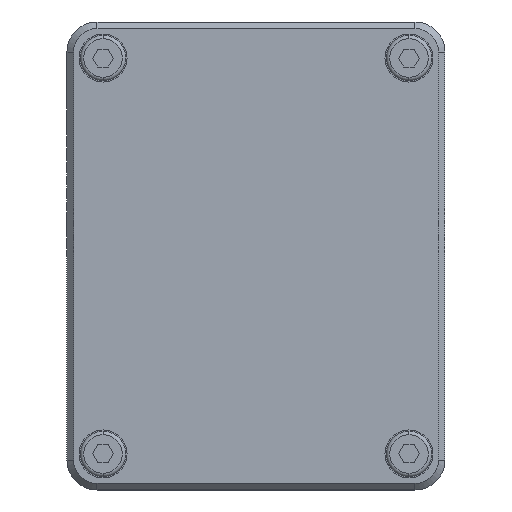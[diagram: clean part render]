
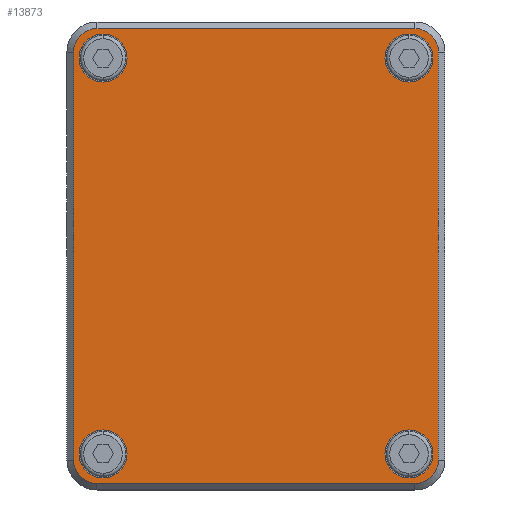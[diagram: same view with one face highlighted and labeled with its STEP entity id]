
A CAD part, front view. The second image highlights one B-rep face of the part: STEP entity #13873.
In plain terms, the highlighted planar face has unit normal (0, -1, 0).
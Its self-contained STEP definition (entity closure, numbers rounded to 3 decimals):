
#86 = VERTEX_POINT ( 'NONE', #26435 ) ;
#804 = EDGE_CURVE ( 'NONE', #17930, #3911, #20769, .T. ) ;
#1087 = CARTESIAN_POINT ( 'NONE',  ( 12.75, 0., -18.5 ) ) ;
#1195 = DIRECTION ( 'NONE',  ( 0., -1., 0. ) ) ;
#1227 = CARTESIAN_POINT ( 'NONE',  ( -13.25, 0., 18.95 ) ) ;
#1240 = CARTESIAN_POINT ( 'NONE',  ( 13.25, 0., -18.95 ) ) ;
#1244 = AXIS2_PLACEMENT_3D ( 'NONE', #32764, #1195, #40172 ) ;
#1585 = ORIENTED_EDGE ( 'NONE', *, *, #3953, .T. ) ;
#2086 = DIRECTION ( 'NONE',  ( 0., -1., 0. ) ) ;
#2165 = ORIENTED_EDGE ( 'NONE', *, *, #38783, .T. ) ;
#2243 = DIRECTION ( 'NONE',  ( 0., 0., -1. ) ) ;
#2758 = CARTESIAN_POINT ( 'NONE',  ( -15.2, 0., -17. ) ) ;
#3074 = CARTESIAN_POINT ( 'NONE',  ( -13.25, 0., 18.95 ) ) ;
#3911 = VERTEX_POINT ( 'NONE', #41029 ) ;
#3919 = FACE_BOUND ( 'NONE', #33617, .T. ) ;
#3953 = EDGE_CURVE ( 'NONE', #7429, #22834, #20222, .T. ) ;
#4051 = CIRCLE ( 'NONE', #36503, 1.95 ) ;
#4334 = DIRECTION ( 'NONE',  ( 0., -1., 0. ) ) ;
#4456 = AXIS2_PLACEMENT_3D ( 'NONE', #12577, #37949, #9380 ) ;
#4591 = CIRCLE ( 'NONE', #17085, 2. ) ;
#4826 = ORIENTED_EDGE ( 'NONE', *, *, #8606, .F. ) ;
#4882 = ORIENTED_EDGE ( 'NONE', *, *, #9795, .T. ) ;
#5132 = ORIENTED_EDGE ( 'NONE', *, *, #7866, .F. ) ;
#5941 = VERTEX_POINT ( 'NONE', #41621 ) ;
#6053 = VERTEX_POINT ( 'NONE', #41189 ) ;
#6199 = LINE ( 'NONE', #2758, #19258 ) ;
#6934 = FACE_BOUND ( 'NONE', #37866, .T. ) ;
#7429 = VERTEX_POINT ( 'NONE', #20666 ) ;
#7469 = DIRECTION ( 'NONE',  ( 0., 0., -1. ) ) ;
#7866 = EDGE_CURVE ( 'NONE', #86, #16797, #24680, .T. ) ;
#7880 = CARTESIAN_POINT ( 'NONE',  ( -12.75, 0., 16.5 ) ) ;
#8038 = CARTESIAN_POINT ( 'NONE',  ( 13.25, 0., -18.95 ) ) ;
#8606 = EDGE_CURVE ( 'NONE', #3911, #17930, #30964, .T. ) ;
#8613 = DIRECTION ( 'NONE',  ( 0., -1., 0. ) ) ;
#9015 = AXIS2_PLACEMENT_3D ( 'NONE', #39905, #19576, #29738 ) ;
#9087 = ORIENTED_EDGE ( 'NONE', *, *, #25024, .F. ) ;
#9321 = DIRECTION ( 'NONE',  ( 0., -1., 0. ) ) ;
#9380 = DIRECTION ( 'NONE',  ( 0., 0., 1. ) ) ;
#9795 = EDGE_CURVE ( 'NONE', #22834, #28900, #22179, .T. ) ;
#10007 = ORIENTED_EDGE ( 'NONE', *, *, #40045, .F. ) ;
#10244 = ORIENTED_EDGE ( 'NONE', *, *, #30945, .T. ) ;
#10292 = CARTESIAN_POINT ( 'NONE',  ( -12.75, 0., 18.5 ) ) ;
#10331 = DIRECTION ( 'NONE',  ( 0., 0., -1. ) ) ;
#10365 = EDGE_CURVE ( 'NONE', #14129, #31564, #6199, .T. ) ;
#10486 = DIRECTION ( 'NONE',  ( 0., -1., 0. ) ) ;
#10711 = AXIS2_PLACEMENT_3D ( 'NONE', #36384, #4334, #39858 ) ;
#10955 = CARTESIAN_POINT ( 'NONE',  ( 12.75, 0., 18.5 ) ) ;
#11379 = CARTESIAN_POINT ( 'NONE',  ( 13.25, 0., 17. ) ) ;
#11564 = DIRECTION ( 'NONE',  ( 0., 0., -1. ) ) ;
#11599 = EDGE_CURVE ( 'NONE', #16489, #5941, #4591, .T. ) ;
#11994 = CIRCLE ( 'NONE', #29638, 2. ) ;
#12141 = AXIS2_PLACEMENT_3D ( 'NONE', #11379, #10486, #7469 ) ;
#12577 = CARTESIAN_POINT ( 'NONE',  ( -12.75, 0., -16.5 ) ) ;
#13846 = FACE_BOUND ( 'NONE', #14206, .T. ) ;
#13873 = ADVANCED_FACE ( 'NONE', ( #38524, #3919, #13846, #28132, #6934 ), #20979, .T. ) ;
#14129 = VERTEX_POINT ( 'NONE', #20404 ) ;
#14206 = EDGE_LOOP ( 'NONE', ( #43019, #9087 ) ) ;
#14401 = AXIS2_PLACEMENT_3D ( 'NONE', #24684, #38758, #17963 ) ;
#15281 = VECTOR ( 'NONE', #22079, 1000. ) ;
#16085 = CARTESIAN_POINT ( 'NONE',  ( 12.75, 0., 16.5 ) ) ;
#16134 = DIRECTION ( 'NONE',  ( 0., 0., -1. ) ) ;
#16489 = VERTEX_POINT ( 'NONE', #1087 ) ;
#16545 = CARTESIAN_POINT ( 'NONE',  ( 13.25, 0., 18.95 ) ) ;
#16797 = VERTEX_POINT ( 'NONE', #10955 ) ;
#17085 = AXIS2_PLACEMENT_3D ( 'NONE', #45372, #45592, #10331 ) ;
#17930 = VERTEX_POINT ( 'NONE', #26226 ) ;
#17963 = DIRECTION ( 'NONE',  ( 0., 0., -1. ) ) ;
#17970 = EDGE_CURVE ( 'NONE', #16797, #86, #42344, .T. ) ;
#18447 = VERTEX_POINT ( 'NONE', #1240 ) ;
#18999 = CIRCLE ( 'NONE', #22687, 1.95 ) ;
#19258 = VECTOR ( 'NONE', #31079, 1000. ) ;
#19576 = DIRECTION ( 'NONE',  ( 0., -1., 0. ) ) ;
#20138 = ORIENTED_EDGE ( 'NONE', *, *, #10365, .T. ) ;
#20222 = CIRCLE ( 'NONE', #12141, 1.95 ) ;
#20404 = CARTESIAN_POINT ( 'NONE',  ( -15.2, 0., 17. ) ) ;
#20666 = CARTESIAN_POINT ( 'NONE',  ( 15.2, 0., 17. ) ) ;
#20709 = DIRECTION ( 'NONE',  ( 0., 0., 1. ) ) ;
#20769 = CIRCLE ( 'NONE', #9015, 2. ) ;
#20979 = PLANE ( 'NONE',  #14401 ) ;
#21356 = EDGE_CURVE ( 'NONE', #43620, #6053, #11994, .T. ) ;
#22079 = DIRECTION ( 'NONE',  ( 1., 0., 0. ) ) ;
#22179 = LINE ( 'NONE', #1227, #36208 ) ;
#22651 = DIRECTION ( 'NONE',  ( 0., 0., -1. ) ) ;
#22687 = AXIS2_PLACEMENT_3D ( 'NONE', #26100, #8613, #22651 ) ;
#22834 = VERTEX_POINT ( 'NONE', #16545 ) ;
#23599 = EDGE_CURVE ( 'NONE', #40700, #7429, #42631, .T. ) ;
#23745 = ORIENTED_EDGE ( 'NONE', *, *, #26745, .T. ) ;
#24680 = CIRCLE ( 'NONE', #43082, 2. ) ;
#24684 = CARTESIAN_POINT ( 'NONE',  ( 0., 0., 0. ) ) ;
#25024 = EDGE_CURVE ( 'NONE', #5941, #16489, #43216, .T. ) ;
#25144 = DIRECTION ( 'NONE',  ( 0., -1., 0. ) ) ;
#25393 = ORIENTED_EDGE ( 'NONE', *, *, #21356, .F. ) ;
#26100 = CARTESIAN_POINT ( 'NONE',  ( 13.25, 0., -17. ) ) ;
#26226 = CARTESIAN_POINT ( 'NONE',  ( -12.75, 0., -14.5 ) ) ;
#26435 = CARTESIAN_POINT ( 'NONE',  ( 12.75, 0., 14.5 ) ) ;
#26745 = EDGE_CURVE ( 'NONE', #18447, #40700, #18999, .T. ) ;
#27240 = EDGE_LOOP ( 'NONE', ( #23745, #38438, #1585, #4882, #2165, #20138, #10244, #40923 ) ) ;
#27269 = CARTESIAN_POINT ( 'NONE',  ( -13.25, 0., -18.95 ) ) ;
#28132 = FACE_BOUND ( 'NONE', #35329, .T. ) ;
#28147 = EDGE_CURVE ( 'NONE', #42932, #18447, #29003, .T. ) ;
#28341 = AXIS2_PLACEMENT_3D ( 'NONE', #16085, #30154, #44220 ) ;
#28900 = VERTEX_POINT ( 'NONE', #3074 ) ;
#28935 = VECTOR ( 'NONE', #20709, 1000. ) ;
#29003 = LINE ( 'NONE', #8038, #15281 ) ;
#29638 = AXIS2_PLACEMENT_3D ( 'NONE', #7880, #25144, #11564 ) ;
#29696 = CARTESIAN_POINT ( 'NONE',  ( -15.2, 0., -17. ) ) ;
#29738 = DIRECTION ( 'NONE',  ( 0., 0., 1. ) ) ;
#30154 = DIRECTION ( 'NONE',  ( 0., -1., 0. ) ) ;
#30945 = EDGE_CURVE ( 'NONE', #31564, #42932, #4051, .T. ) ;
#30964 = CIRCLE ( 'NONE', #4456, 2. ) ;
#31079 = DIRECTION ( 'NONE',  ( 0., 0., -1. ) ) ;
#31564 = VERTEX_POINT ( 'NONE', #29696 ) ;
#32764 = CARTESIAN_POINT ( 'NONE',  ( 12.75, 0., -16.5 ) ) ;
#33033 = DIRECTION ( 'NONE',  ( -1., 0., 0. ) ) ;
#33617 = EDGE_LOOP ( 'NONE', ( #4826, #44746 ) ) ;
#33657 = CARTESIAN_POINT ( 'NONE',  ( -13.25, 0., 17. ) ) ;
#34796 = ORIENTED_EDGE ( 'NONE', *, *, #17970, .F. ) ;
#35329 = EDGE_LOOP ( 'NONE', ( #5132, #34796 ) ) ;
#35471 = CARTESIAN_POINT ( 'NONE',  ( 15.2, 0., 17. ) ) ;
#36065 = CARTESIAN_POINT ( 'NONE',  ( 15.2, 0., -17. ) ) ;
#36208 = VECTOR ( 'NONE', #33033, 1000. ) ;
#36384 = CARTESIAN_POINT ( 'NONE',  ( -12.75, 0., 16.5 ) ) ;
#36503 = AXIS2_PLACEMENT_3D ( 'NONE', #40755, #37296, #2243 ) ;
#37248 = CIRCLE ( 'NONE', #43917, 1.95 ) ;
#37296 = DIRECTION ( 'NONE',  ( 0., -1., 0. ) ) ;
#37866 = EDGE_LOOP ( 'NONE', ( #10007, #25393 ) ) ;
#37949 = DIRECTION ( 'NONE',  ( 0., -1., 0. ) ) ;
#38287 = CARTESIAN_POINT ( 'NONE',  ( 12.75, 0., 16.5 ) ) ;
#38438 = ORIENTED_EDGE ( 'NONE', *, *, #23599, .T. ) ;
#38524 = FACE_OUTER_BOUND ( 'NONE', #27240, .T. ) ;
#38758 = DIRECTION ( 'NONE',  ( 0., -1., 0. ) ) ;
#38783 = EDGE_CURVE ( 'NONE', #28900, #14129, #37248, .T. ) ;
#39858 = DIRECTION ( 'NONE',  ( 0., 0., -1. ) ) ;
#39905 = CARTESIAN_POINT ( 'NONE',  ( -12.75, 0., -16.5 ) ) ;
#40045 = EDGE_CURVE ( 'NONE', #6053, #43620, #43110, .T. ) ;
#40172 = DIRECTION ( 'NONE',  ( 0., 0., -1. ) ) ;
#40700 = VERTEX_POINT ( 'NONE', #36065 ) ;
#40755 = CARTESIAN_POINT ( 'NONE',  ( -13.25, 0., -17. ) ) ;
#40923 = ORIENTED_EDGE ( 'NONE', *, *, #28147, .T. ) ;
#41029 = CARTESIAN_POINT ( 'NONE',  ( -12.75, 0., -18.5 ) ) ;
#41189 = CARTESIAN_POINT ( 'NONE',  ( -12.75, 0., 14.5 ) ) ;
#41621 = CARTESIAN_POINT ( 'NONE',  ( 12.75, 0., -14.5 ) ) ;
#42344 = CIRCLE ( 'NONE', #28341, 2. ) ;
#42631 = LINE ( 'NONE', #35471, #28935 ) ;
#42932 = VERTEX_POINT ( 'NONE', #27269 ) ;
#43019 = ORIENTED_EDGE ( 'NONE', *, *, #11599, .F. ) ;
#43082 = AXIS2_PLACEMENT_3D ( 'NONE', #38287, #9321, #43916 ) ;
#43110 = CIRCLE ( 'NONE', #10711, 2. ) ;
#43216 = CIRCLE ( 'NONE', #1244, 2. ) ;
#43620 = VERTEX_POINT ( 'NONE', #10292 ) ;
#43916 = DIRECTION ( 'NONE',  ( 0., 0., 1. ) ) ;
#43917 = AXIS2_PLACEMENT_3D ( 'NONE', #33657, #2086, #16134 ) ;
#44220 = DIRECTION ( 'NONE',  ( 0., 0., 1. ) ) ;
#44746 = ORIENTED_EDGE ( 'NONE', *, *, #804, .F. ) ;
#45372 = CARTESIAN_POINT ( 'NONE',  ( 12.75, 0., -16.5 ) ) ;
#45592 = DIRECTION ( 'NONE',  ( 0., -1., 0. ) ) ;
